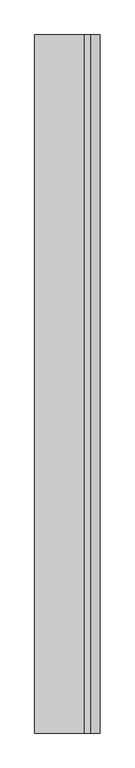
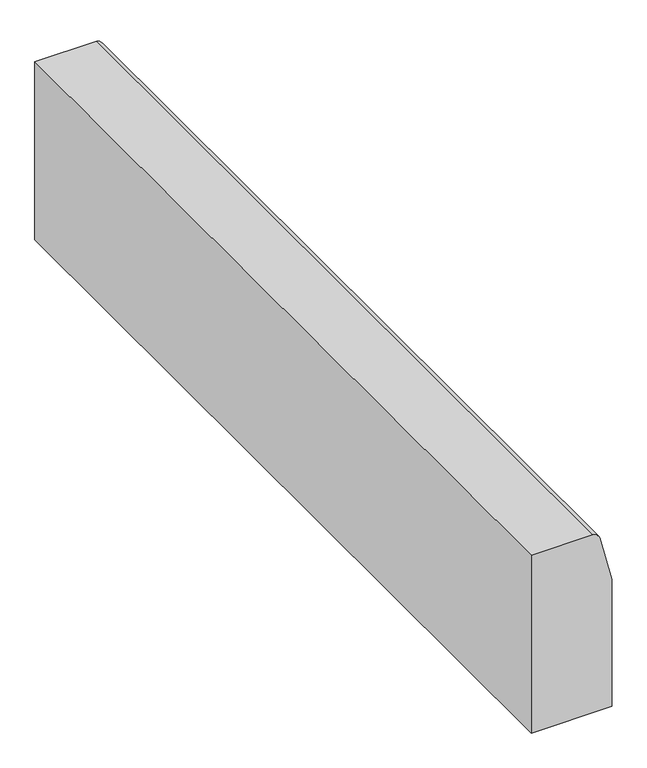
"""IFC4 building model written with IfcOpenShell, lengths in millimetres: railing geometry, BORDILLO BARRERA RECTA_MDSA-U10-3580_TITAN_80x35x15."""

from ifc_helpers import new_model, si_unit, point, frame, frame_2d, origin, place, context, project, spatial, polyline, circle_curve, trimmed, segment, composite_curve, outline, extrude, source, transform, mapped, element, save


def railing_0f209ece(model_context):
    return source(origin(), model_context, "Body", "SweptSolid", [
        extrude(outline(composite_curve([segment(polyline([(0.0, -4393.8343252), (250.0, -4393.8343252), (339.607052, -4416.1758725)]), True, "CONTINUOUS"), segment(trimmed(circle_curve(frame_2d((330.8066955, -4433.8813695)), 19.7719725), [point((339.607052, -4416.1758725))], [point((350.0, -4429.1329002))], False, "CARTESIAN"), True, "CONTINUOUS"), segment(polyline([(350.0, -4429.1329002), (350.0, -4543.8343252), (0.0, -4543.8343252), (0.0, -4393.8343252)]), True, "CONTINUOUS")], self_intersect=False)), frame((0.0, 3538.5861748, 0.0), z_axis=(0.0, 1.0, 0.0), x_axis=(0.0, 0.0, 1.0)), (0.0, 0.0, 1.0), 1600.0),
    ])


if __name__ == "__main__":
    model = new_model("IFC4")
    model_context = context("Model", 3, world=origin())
    ifc_project = project(units=[si_unit("LENGTHUNIT", "METRE", prefix="MILLI")], contexts=[model_context])
    site = spatial("IfcSite", under=ifc_project)
    building = spatial("IfcBuilding", under=site)
    placement = place(None, origin())
    railing_shape = railing_0f209ece(model_context)
    element("IfcRailing", 1, ObjectType="BORDILLO BARRERA RECTA_MDSA-U10-3580_TITAN_80x35x15", at=placement, inside=building, context=model_context, shape_type="MappedRepresentation", body=[
        mapped(railing_shape, transform((0.0, 0.0, 0.0), x_axis=(1.0, 0.0, 0.0), y_axis=(0.0, 1.0, 0.0), z_axis=(0.0, 0.0, 1.0))),
    ])
    save(model, "model.ifc")
